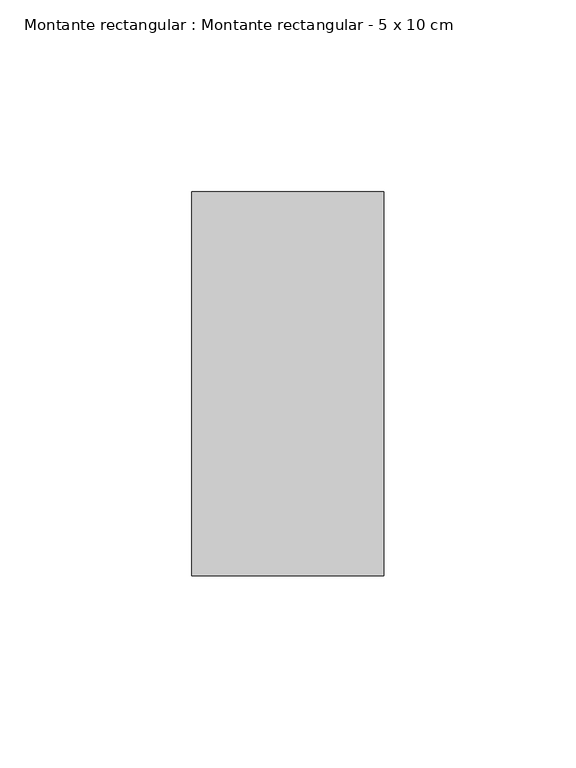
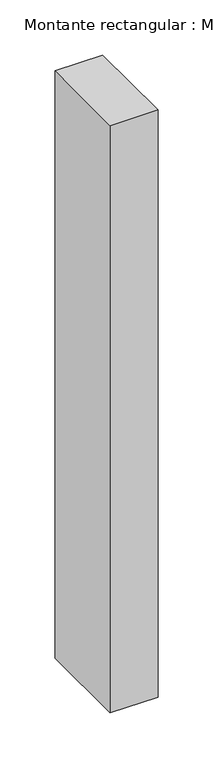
"""IFC4 building model written with IfcOpenShell, lengths in millimetres: member geometry, Montante rectangular : Montante rectangular - 5 x 10 cm."""

import ifcopenshell
import ifcopenshell.guid

model = None  # the IFC model being written
_history = None  # IfcOwnerHistory: only IFC2X3 demands one
_inside = {}  # id of a spatial element -> (the spatial element, [elements in it])
_under = {}  # id of a project, library or spatial element -> (it, [spatial elements below it])
_declared = {}  # id of a project -> (the project, [libraries it declares])
_typed = {}  # id of a type object -> (the type object, [elements of that type])
_made_of = {}  # id of a material, layer set ... -> (it, [elements and type objects made of it])


def new_model(schema):
    """Start an empty IFC model of exactly this schema.

    Asked for "IFC4X3", IfcOpenShell would pick the latest addendum, in which some entities
    have other attributes; the version numbers below select the first issue.
    IFC2X3 requires an IfcOwnerHistory on every rooted entity: one is made here for all.
    """
    global model, _history
    if schema == "IFC4X3":
        model = ifcopenshell.file(schema_version=(4, 3, 0, 0))
    else:
        model = ifcopenshell.file(schema=schema)
    _inside.clear()
    _under.clear()
    _declared.clear()
    _typed.clear()
    _made_of.clear()
    _history = None
    if model.schema == "IFC2X3":
        org = make("IfcOrganization", Name="unknown")
        user = make(
            "IfcPersonAndOrganization",
            ThePerson=make("IfcPerson", FamilyName="unknown"),
            TheOrganization=org,
        )
        app = make(
            "IfcApplication",
            ApplicationDeveloper=org,
            Version="unknown",
            ApplicationFullName="unknown",
            ApplicationIdentifier="unknown",
        )
        _history = make(
            "IfcOwnerHistory",
            OwningUser=user,
            OwningApplication=app,
            ChangeAction="ADDED",
            CreationDate=0,
        )
    return model


def make(cls, **values):
    """One entity of the class cls with the attributes given. An attribute that is None is left unset."""
    return model.create_entity(
        cls, **{name: value for name, value in values.items() if value is not None}
    )


def rooted(cls, **values):
    """An entity with a GlobalId (a new one), such as an element, a storey or a relation."""
    return make(cls, GlobalId=ifcopenshell.guid.new(), OwnerHistory=_history, **values)


def si_unit(unit_type, name, prefix=None):
    """IfcSIUnit, for example si_unit("LENGTHUNIT", "METRE", prefix="MILLI")."""
    return make("IfcSIUnit", UnitType=unit_type, Prefix=prefix, Name=name)


def assignment(units):
    """IfcUnitAssignment: the units of a project."""
    return None if units is None else make("IfcUnitAssignment", Units=units)


def point(xyz):
    """IfcCartesianPoint."""
    return None if xyz is None else make("IfcCartesianPoint", Coordinates=xyz)


def direction(xyz):
    """IfcDirection."""
    return None if xyz is None else make("IfcDirection", DirectionRatios=xyz)


def frame(location, z_axis=None, x_axis=None):
    """IfcAxis2Placement3D, a coordinate frame: its origin and axes. An axis left out is left unset."""
    return make(
        "IfcAxis2Placement3D",
        Location=point(location),
        Axis=direction(z_axis),
        RefDirection=direction(x_axis),
    )


def origin():
    """The frame at (0, 0, 0) with its axes left unset."""
    return frame((0.0, 0.0, 0.0))


def place(relative_to, where):
    """IfcLocalPlacement: puts the frame where relative to a parent placement (None: the world)."""
    return make(
        "IfcLocalPlacement", PlacementRelTo=relative_to, RelativePlacement=where
    )


def context(
    kind, dimensions, precision=None, world=None, true_north=None, identifier=None
):
    """IfcGeometricRepresentationContext, for example the 3D "Model" context."""
    return make(
        "IfcGeometricRepresentationContext",
        ContextIdentifier=identifier,
        ContextType=kind,
        CoordinateSpaceDimension=dimensions,
        Precision=precision,
        WorldCoordinateSystem=world,
        TrueNorth=true_north,
    )


def project(units=None, contexts=None):
    """IfcProject with its units and contexts."""
    return rooted(
        "IfcProject",
        Name="project",
        RepresentationContexts=contexts,
        UnitsInContext=assignment(units),
    )


def spatial(cls, under=None, at=None, **own):
    """A site, building, storey or space (cls), placed at a placement, below another one or the project."""
    s = rooted(cls, ObjectPlacement=at, **own)
    if under is not None:
        _under.setdefault(under.id(), (under, []))[1].append(s)
    return s


def polyline(points):
    """IfcPolyline through the points."""
    return make("IfcPolyline", Points=[point(p) for p in points])


def outline(outer, holes=None, kind="AREA"):
    """IfcArbitraryClosedProfileDef: a profile drawn as a closed curve; with holes, ...WithVoids."""
    if holes is None:
        return make("IfcArbitraryClosedProfileDef", ProfileType=kind, OuterCurve=outer)
    return make(
        "IfcArbitraryProfileDefWithVoids",
        ProfileType=kind,
        OuterCurve=outer,
        InnerCurves=holes,
    )


def extrude(swept, where, along, depth):
    """IfcExtrudedAreaSolid: the profile swept, set in the frame where, extruded along a direction by depth."""
    return make(
        "IfcExtrudedAreaSolid",
        SweptArea=swept,
        Position=where,
        ExtrudedDirection=direction(along),
        Depth=depth,
    )


def shape(context_of_items, identifier, shape_type, items):
    """IfcShapeRepresentation: the items that make up one representation, for example the "Body"."""
    return make(
        "IfcShapeRepresentation",
        ContextOfItems=context_of_items,
        RepresentationIdentifier=identifier,
        RepresentationType=shape_type,
        Items=items,
    )


def source(mapping_origin, context_of_items, identifier, shape_type, items):
    """IfcRepresentationMap: a shape defined once, which mapped items show again and again."""
    return make(
        "IfcRepresentationMap",
        MappingOrigin=mapping_origin,
        MappedRepresentation=shape(context_of_items, identifier, shape_type, items),
    )


def transform(
    local_origin,
    x_axis=None,
    y_axis=None,
    z_axis=None,
    scale=None,
    scale2=None,
    scale3=None,
    uniform=True,
):
    """IfcCartesianTransformationOperator3D, or its non-uniform kind. x_axis, y_axis, z_axis: its Axis1, 2, 3."""
    if uniform:
        return make(
            "IfcCartesianTransformationOperator3D",
            Axis1=direction(x_axis),
            Axis2=direction(y_axis),
            LocalOrigin=point(local_origin),
            Scale=scale,
            Axis3=direction(z_axis),
        )
    return make(
        "IfcCartesianTransformationOperator3DnonUniform",
        Axis1=direction(x_axis),
        Axis2=direction(y_axis),
        LocalOrigin=point(local_origin),
        Scale=scale,
        Axis3=direction(z_axis),
        Scale2=scale2,
        Scale3=scale3,
    )


def mapped(mapping_source, mapping_target):
    """IfcMappedItem: shows the shape of a source again, moved by a transform."""
    return make(
        "IfcMappedItem", MappingSource=mapping_source, MappingTarget=mapping_target
    )


def made_of(thing, what):
    """Note that an element or type object is made of a material, layer set ...; save() writes the relation."""
    if what is not None:
        _made_of.setdefault(what.id(), (what, []))[1].append(thing)
    return thing


def element(
    cls,
    number,
    at=None,
    inside=None,
    cuts=None,
    type_object=None,
    material=None,
    context=None,
    identifier="Body",
    shape_type=None,
    held_by="IfcProductDefinitionShape",
    body=None,
    shapes=None,
    **own,
):
    """One element of the class cls, such as IfcWall. Its Tag is "e" and its number.

    at: its placement. inside: the storey or other place that contains it. cuts: it is an
    opening in that element (IfcRelVoidsElement). A single representation is given by context,
    identifier, shape_type and body (its items); several are given by shapes. held_by: the class
    of the entity that holds the representations. save() writes the other relations.
    """
    e = rooted(cls, Tag="e%d" % number, ObjectPlacement=at, **own)
    if body is not None:
        shapes = [shape(context, identifier, shape_type, body)]
    if shapes is not None:
        e.Representation = make(held_by, Representations=shapes)
    if inside is not None:
        _inside.setdefault(inside.id(), (inside, []))[1].append(e)
    if cuts is not None:
        rooted(
            "IfcRelVoidsElement", RelatingBuildingElement=cuts, RelatedOpeningElement=e
        )
    if type_object is not None:
        _typed.setdefault(type_object.id(), (type_object, []))[1].append(e)
    return made_of(e, material)


def aggregate(whole, parts):
    """IfcRelAggregates: a whole, such as a stair, and the parts it consists of."""
    return rooted("IfcRelAggregates", RelatingObject=whole, RelatedObjects=parts)


def save(model, path):
    """Write the relations noted so far, then the file.

    IfcRelAggregates (storeys below a building ...), IfcRelContainedInSpatialStructure (elements
    in a storey), IfcRelDefinesByType, IfcRelAssociatesMaterial and IfcRelDeclares: one each for
    every whole, place, type object, material and project.
    """
    for whole, parts in _under.values():
        aggregate(whole, parts)
    for where, things in _inside.values():
        rooted(
            "IfcRelContainedInSpatialStructure",
            RelatedElements=things,
            RelatingStructure=where,
        )
    for kind, things in _typed.values():
        rooted("IfcRelDefinesByType", RelatedObjects=things, RelatingType=kind)
    for what, things in _made_of.values():
        rooted("IfcRelAssociatesMaterial", RelatedObjects=things, RelatingMaterial=what)
    for by, libraries in _declared.values():
        rooted("IfcRelDeclares", RelatingContext=by, RelatedDefinitions=libraries)
    model.write(path)


def montante_rectangular_montante_rectangular_5_x_10_cm_2290ae2b(model_context):
    return source(origin(), model_context, "Body", "SweptSolid", [
        extrude(outline(polyline([(25.0, 50.0), (25.0, -50.0), (-25.0, -50.0), (-25.0, 50.0), (25.0, 50.0)])), frame((0.0, 0.0, -650.0), z_axis=(0.0, 0.0, 1.0), x_axis=(1.0, 0.0, 0.0)), (0.0, 0.0, 1.0), 650.0),
    ])


if __name__ == "__main__":
    model = new_model("IFC4")
    model_context = context("Model", 3, world=origin())
    ifc_project = project(units=[si_unit("LENGTHUNIT", "METRE", prefix="MILLI")], contexts=[model_context])
    site = spatial("IfcSite", under=ifc_project)
    building = spatial("IfcBuilding", under=site)
    placement = place(None, origin())
    montante_rectangular_montante_rectangular_5_x_10_cm_shape = montante_rectangular_montante_rectangular_5_x_10_cm_2290ae2b(model_context)
    element("IfcMember", 1, ObjectType="Montante rectangular : Montante rectangular - 5 x 10 cm", at=placement, inside=building, context=model_context, shape_type="MappedRepresentation", body=[
        mapped(montante_rectangular_montante_rectangular_5_x_10_cm_shape, transform((0.0, 0.0, 0.0), x_axis=(1.0, 0.0, 0.0), y_axis=(0.0, 1.0, 0.0), z_axis=(0.0, 0.0, 1.0))),
    ])
    save(model, "model.ifc")
